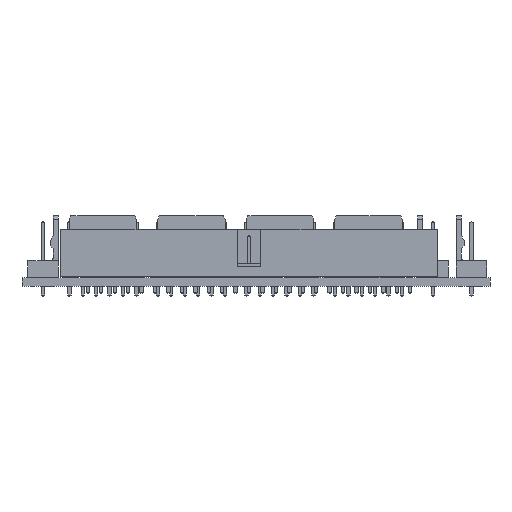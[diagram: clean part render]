
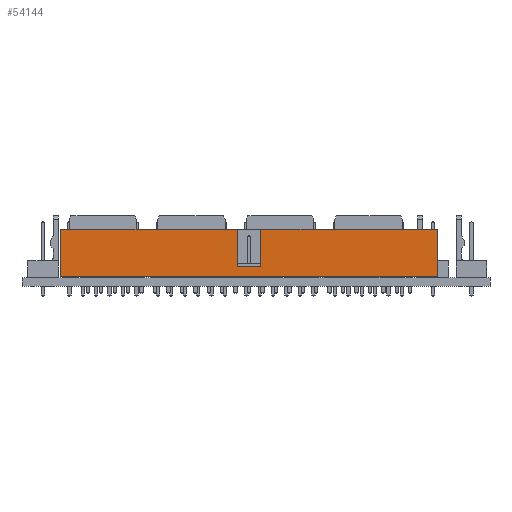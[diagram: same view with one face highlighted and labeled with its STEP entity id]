
A CAD part, front view. The second image highlights one B-rep face of the part: STEP entity #54144.
In plain terms, the highlighted planar face has unit normal (0, -1, 0) as drawn and (-1, 0, 0) by its records, which use the part's own axes.
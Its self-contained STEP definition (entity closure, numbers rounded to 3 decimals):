
#54144 = ADVANCED_FACE('',(#54145),#54159,.T.);
#54145 = FACE_BOUND('',#54146,.T.);
#54146 = EDGE_LOOP('',(#54147,#54182,#54210,#54238,#54266,#54294,#54322,
    #54350));
#54147 = ORIENTED_EDGE('',*,*,#54148,.F.);
#54148 = EDGE_CURVE('',#54149,#54151,#54153,.T.);
#54149 = VERTEX_POINT('',#54150);
#54150 = CARTESIAN_POINT('',(-3.155,5.1,0.25));
#54151 = VERTEX_POINT('',#54152);
#54152 = CARTESIAN_POINT('',(-3.155,5.1,9.1));
#54153 = SURFACE_CURVE('',#54154,(#54158,#54170),.PCURVE_S1.);
#54154 = LINE('',#54155,#54156);
#54155 = CARTESIAN_POINT('',(-3.155,5.1,0.25));
#54156 = VECTOR('',#54157,1.);
#54157 = DIRECTION('',(0.,0.,1.));
#54158 = PCURVE('',#54159,#54164);
#54159 = PLANE('',#54160);
#54160 = AXIS2_PLACEMENT_3D('',#54161,#54162,#54163);
#54161 = CARTESIAN_POINT('',(-3.155,-30.48,4.675));
#54162 = DIRECTION('',(-1.,0.,0.));
#54163 = DIRECTION('',(0.,0.,-1.));
#54164 = DEFINITIONAL_REPRESENTATION('',(#54165),#54169);
#54165 = LINE('',#54166,#54167);
#54166 = CARTESIAN_POINT('',(4.425,-35.58));
#54167 = VECTOR('',#54168,1.);
#54168 = DIRECTION('',(-1.,0.));
#54169 = ( GEOMETRIC_REPRESENTATION_CONTEXT(2) 
PARAMETRIC_REPRESENTATION_CONTEXT() REPRESENTATION_CONTEXT('2D SPACE',''
  ) );
#54170 = PCURVE('',#54171,#54176);
#54171 = PLANE('',#54172);
#54172 = AXIS2_PLACEMENT_3D('',#54173,#54174,#54175);
#54173 = CARTESIAN_POINT('',(1.27,5.1,4.675));
#54174 = DIRECTION('',(0.,1.,0.));
#54175 = DIRECTION('',(0.,0.,1.));
#54176 = DEFINITIONAL_REPRESENTATION('',(#54177),#54181);
#54177 = LINE('',#54178,#54179);
#54178 = CARTESIAN_POINT('',(-4.425,-4.425));
#54179 = VECTOR('',#54180,1.);
#54180 = DIRECTION('',(1.,0.));
#54181 = ( GEOMETRIC_REPRESENTATION_CONTEXT(2) 
PARAMETRIC_REPRESENTATION_CONTEXT() REPRESENTATION_CONTEXT('2D SPACE',''
  ) );
#54182 = ORIENTED_EDGE('',*,*,#54183,.T.);
#54183 = EDGE_CURVE('',#54149,#54184,#54186,.T.);
#54184 = VERTEX_POINT('',#54185);
#54185 = CARTESIAN_POINT('',(-3.155,-66.06,0.25));
#54186 = SURFACE_CURVE('',#54187,(#54191,#54198),.PCURVE_S1.);
#54187 = LINE('',#54188,#54189);
#54188 = CARTESIAN_POINT('',(-3.155,5.1,0.25));
#54189 = VECTOR('',#54190,1.);
#54190 = DIRECTION('',(0.,-1.,0.));
#54191 = PCURVE('',#54159,#54192);
#54192 = DEFINITIONAL_REPRESENTATION('',(#54193),#54197);
#54193 = LINE('',#54194,#54195);
#54194 = CARTESIAN_POINT('',(4.425,-35.58));
#54195 = VECTOR('',#54196,1.);
#54196 = DIRECTION('',(0.,1.));
#54197 = ( GEOMETRIC_REPRESENTATION_CONTEXT(2) 
PARAMETRIC_REPRESENTATION_CONTEXT() REPRESENTATION_CONTEXT('2D SPACE',''
  ) );
#54198 = PCURVE('',#54199,#54204);
#54199 = PLANE('',#54200);
#54200 = AXIS2_PLACEMENT_3D('',#54201,#54202,#54203);
#54201 = CARTESIAN_POINT('',(1.288,-30.48,0.25));
#54202 = DIRECTION('',(0.,0.,-1.));
#54203 = DIRECTION('',(-1.,0.,0.));
#54204 = DEFINITIONAL_REPRESENTATION('',(#54205),#54209);
#54205 = LINE('',#54206,#54207);
#54206 = CARTESIAN_POINT('',(4.443,35.58));
#54207 = VECTOR('',#54208,1.);
#54208 = DIRECTION('',(0.,-1.));
#54209 = ( GEOMETRIC_REPRESENTATION_CONTEXT(2) 
PARAMETRIC_REPRESENTATION_CONTEXT() REPRESENTATION_CONTEXT('2D SPACE',''
  ) );
#54210 = ORIENTED_EDGE('',*,*,#54211,.T.);
#54211 = EDGE_CURVE('',#54184,#54212,#54214,.T.);
#54212 = VERTEX_POINT('',#54213);
#54213 = CARTESIAN_POINT('',(-3.155,-66.06,9.1));
#54214 = SURFACE_CURVE('',#54215,(#54219,#54226),.PCURVE_S1.);
#54215 = LINE('',#54216,#54217);
#54216 = CARTESIAN_POINT('',(-3.155,-66.06,2.6));
#54217 = VECTOR('',#54218,1.);
#54218 = DIRECTION('',(0.,0.,1.));
#54219 = PCURVE('',#54159,#54220);
#54220 = DEFINITIONAL_REPRESENTATION('',(#54221),#54225);
#54221 = LINE('',#54222,#54223);
#54222 = CARTESIAN_POINT('',(2.075,35.58));
#54223 = VECTOR('',#54224,1.);
#54224 = DIRECTION('',(-1.,0.));
#54225 = ( GEOMETRIC_REPRESENTATION_CONTEXT(2) 
PARAMETRIC_REPRESENTATION_CONTEXT() REPRESENTATION_CONTEXT('2D SPACE',''
  ) );
#54226 = PCURVE('',#54227,#54232);
#54227 = PLANE('',#54228);
#54228 = AXIS2_PLACEMENT_3D('',#54229,#54230,#54231);
#54229 = CARTESIAN_POINT('',(1.27,-66.06,4.675));
#54230 = DIRECTION('',(0.,-1.,0.));
#54231 = DIRECTION('',(0.,0.,-1.));
#54232 = DEFINITIONAL_REPRESENTATION('',(#54233),#54237);
#54233 = LINE('',#54234,#54235);
#54234 = CARTESIAN_POINT('',(2.075,-4.425));
#54235 = VECTOR('',#54236,1.);
#54236 = DIRECTION('',(-1.,0.));
#54237 = ( GEOMETRIC_REPRESENTATION_CONTEXT(2) 
PARAMETRIC_REPRESENTATION_CONTEXT() REPRESENTATION_CONTEXT('2D SPACE',''
  ) );
#54238 = ORIENTED_EDGE('',*,*,#54239,.F.);
#54239 = EDGE_CURVE('',#54240,#54212,#54242,.T.);
#54240 = VERTEX_POINT('',#54241);
#54241 = CARTESIAN_POINT('',(-3.155,-32.73,9.1));
#54242 = SURFACE_CURVE('',#54243,(#54247,#54254),.PCURVE_S1.);
#54243 = LINE('',#54244,#54245);
#54244 = CARTESIAN_POINT('',(-3.155,5.1,9.1));
#54245 = VECTOR('',#54246,1.);
#54246 = DIRECTION('',(0.,-1.,0.));
#54247 = PCURVE('',#54159,#54248);
#54248 = DEFINITIONAL_REPRESENTATION('',(#54249),#54253);
#54249 = LINE('',#54250,#54251);
#54250 = CARTESIAN_POINT('',(-4.425,-35.58));
#54251 = VECTOR('',#54252,1.);
#54252 = DIRECTION('',(0.,1.));
#54253 = ( GEOMETRIC_REPRESENTATION_CONTEXT(2) 
PARAMETRIC_REPRESENTATION_CONTEXT() REPRESENTATION_CONTEXT('2D SPACE',''
  ) );
#54254 = PCURVE('',#54255,#54260);
#54255 = PLANE('',#54256);
#54256 = AXIS2_PLACEMENT_3D('',#54257,#54258,#54259);
#54257 = CARTESIAN_POINT('',(1.27,-30.48,9.1));
#54258 = DIRECTION('',(0.,0.,1.));
#54259 = DIRECTION('',(1.,0.,0.));
#54260 = DEFINITIONAL_REPRESENTATION('',(#54261),#54265);
#54261 = LINE('',#54262,#54263);
#54262 = CARTESIAN_POINT('',(-4.425,35.58));
#54263 = VECTOR('',#54264,1.);
#54264 = DIRECTION('',(0.,-1.));
#54265 = ( GEOMETRIC_REPRESENTATION_CONTEXT(2) 
PARAMETRIC_REPRESENTATION_CONTEXT() REPRESENTATION_CONTEXT('2D SPACE',''
  ) );
#54266 = ORIENTED_EDGE('',*,*,#54267,.T.);
#54267 = EDGE_CURVE('',#54240,#54268,#54270,.T.);
#54268 = VERTEX_POINT('',#54269);
#54269 = CARTESIAN_POINT('',(-3.155,-32.73,2.1));
#54270 = SURFACE_CURVE('',#54271,(#54275,#54282),.PCURVE_S1.);
#54271 = LINE('',#54272,#54273);
#54272 = CARTESIAN_POINT('',(-3.155,-32.73,3.388));
#54273 = VECTOR('',#54274,1.);
#54274 = DIRECTION('',(0.,0.,-1.));
#54275 = PCURVE('',#54159,#54276);
#54276 = DEFINITIONAL_REPRESENTATION('',(#54277),#54281);
#54277 = LINE('',#54278,#54279);
#54278 = CARTESIAN_POINT('',(1.288,2.25));
#54279 = VECTOR('',#54280,1.);
#54280 = DIRECTION('',(1.,0.));
#54281 = ( GEOMETRIC_REPRESENTATION_CONTEXT(2) 
PARAMETRIC_REPRESENTATION_CONTEXT() REPRESENTATION_CONTEXT('2D SPACE',''
  ) );
#54282 = PCURVE('',#54283,#54288);
#54283 = PLANE('',#54284);
#54284 = AXIS2_PLACEMENT_3D('',#54285,#54286,#54287);
#54285 = CARTESIAN_POINT('',(-5.155,-32.73,2.1));
#54286 = DIRECTION('',(0.,1.,0.));
#54287 = DIRECTION('',(1.,0.,0.));
#54288 = DEFINITIONAL_REPRESENTATION('',(#54289),#54293);
#54289 = LINE('',#54290,#54291);
#54290 = CARTESIAN_POINT('',(2.,-1.288));
#54291 = VECTOR('',#54292,1.);
#54292 = DIRECTION('',(0.,1.));
#54293 = ( GEOMETRIC_REPRESENTATION_CONTEXT(2) 
PARAMETRIC_REPRESENTATION_CONTEXT() REPRESENTATION_CONTEXT('2D SPACE',''
  ) );
#54294 = ORIENTED_EDGE('',*,*,#54295,.T.);
#54295 = EDGE_CURVE('',#54268,#54296,#54298,.T.);
#54296 = VERTEX_POINT('',#54297);
#54297 = CARTESIAN_POINT('',(-3.155,-28.23,2.1));
#54298 = SURFACE_CURVE('',#54299,(#54303,#54310),.PCURVE_S1.);
#54299 = LINE('',#54300,#54301);
#54300 = CARTESIAN_POINT('',(-3.155,-30.48,2.1));
#54301 = VECTOR('',#54302,1.);
#54302 = DIRECTION('',(0.,1.,0.));
#54303 = PCURVE('',#54159,#54304);
#54304 = DEFINITIONAL_REPRESENTATION('',(#54305),#54309);
#54305 = LINE('',#54306,#54307);
#54306 = CARTESIAN_POINT('',(2.575,0.));
#54307 = VECTOR('',#54308,1.);
#54308 = DIRECTION('',(0.,-1.));
#54309 = ( GEOMETRIC_REPRESENTATION_CONTEXT(2) 
PARAMETRIC_REPRESENTATION_CONTEXT() REPRESENTATION_CONTEXT('2D SPACE',''
  ) );
#54310 = PCURVE('',#54311,#54316);
#54311 = PLANE('',#54312);
#54312 = AXIS2_PLACEMENT_3D('',#54313,#54314,#54315);
#54313 = CARTESIAN_POINT('',(-3.155,-30.48,2.1));
#54314 = DIRECTION('',(0.,0.,1.));
#54315 = DIRECTION('',(1.,0.,0.));
#54316 = DEFINITIONAL_REPRESENTATION('',(#54317),#54321);
#54317 = LINE('',#54318,#54319);
#54318 = CARTESIAN_POINT('',(0.,0.));
#54319 = VECTOR('',#54320,1.);
#54320 = DIRECTION('',(0.,1.));
#54321 = ( GEOMETRIC_REPRESENTATION_CONTEXT(2) 
PARAMETRIC_REPRESENTATION_CONTEXT() REPRESENTATION_CONTEXT('2D SPACE',''
  ) );
#54322 = ORIENTED_EDGE('',*,*,#54323,.T.);
#54323 = EDGE_CURVE('',#54296,#54324,#54326,.T.);
#54324 = VERTEX_POINT('',#54325);
#54325 = CARTESIAN_POINT('',(-3.155,-28.23,9.1));
#54326 = SURFACE_CURVE('',#54327,(#54331,#54338),.PCURVE_S1.);
#54327 = LINE('',#54328,#54329);
#54328 = CARTESIAN_POINT('',(-3.155,-28.23,3.388));
#54329 = VECTOR('',#54330,1.);
#54330 = DIRECTION('',(0.,0.,1.));
#54331 = PCURVE('',#54159,#54332);
#54332 = DEFINITIONAL_REPRESENTATION('',(#54333),#54337);
#54333 = LINE('',#54334,#54335);
#54334 = CARTESIAN_POINT('',(1.288,-2.25));
#54335 = VECTOR('',#54336,1.);
#54336 = DIRECTION('',(-1.,0.));
#54337 = ( GEOMETRIC_REPRESENTATION_CONTEXT(2) 
PARAMETRIC_REPRESENTATION_CONTEXT() REPRESENTATION_CONTEXT('2D SPACE',''
  ) );
#54338 = PCURVE('',#54339,#54344);
#54339 = PLANE('',#54340);
#54340 = AXIS2_PLACEMENT_3D('',#54341,#54342,#54343);
#54341 = CARTESIAN_POINT('',(-1.155,-28.23,2.1));
#54342 = DIRECTION('',(0.,-1.,0.));
#54343 = DIRECTION('',(-1.,0.,0.));
#54344 = DEFINITIONAL_REPRESENTATION('',(#54345),#54349);
#54345 = LINE('',#54346,#54347);
#54346 = CARTESIAN_POINT('',(2.,-1.288));
#54347 = VECTOR('',#54348,1.);
#54348 = DIRECTION('',(0.,-1.));
#54349 = ( GEOMETRIC_REPRESENTATION_CONTEXT(2) 
PARAMETRIC_REPRESENTATION_CONTEXT() REPRESENTATION_CONTEXT('2D SPACE',''
  ) );
#54350 = ORIENTED_EDGE('',*,*,#54351,.F.);
#54351 = EDGE_CURVE('',#54151,#54324,#54352,.T.);
#54352 = SURFACE_CURVE('',#54353,(#54357,#54364),.PCURVE_S1.);
#54353 = LINE('',#54354,#54355);
#54354 = CARTESIAN_POINT('',(-3.155,5.1,9.1));
#54355 = VECTOR('',#54356,1.);
#54356 = DIRECTION('',(0.,-1.,0.));
#54357 = PCURVE('',#54159,#54358);
#54358 = DEFINITIONAL_REPRESENTATION('',(#54359),#54363);
#54359 = LINE('',#54360,#54361);
#54360 = CARTESIAN_POINT('',(-4.425,-35.58));
#54361 = VECTOR('',#54362,1.);
#54362 = DIRECTION('',(0.,1.));
#54363 = ( GEOMETRIC_REPRESENTATION_CONTEXT(2) 
PARAMETRIC_REPRESENTATION_CONTEXT() REPRESENTATION_CONTEXT('2D SPACE',''
  ) );
#54364 = PCURVE('',#54255,#54365);
#54365 = DEFINITIONAL_REPRESENTATION('',(#54366),#54370);
#54366 = LINE('',#54367,#54368);
#54367 = CARTESIAN_POINT('',(-4.425,35.58));
#54368 = VECTOR('',#54369,1.);
#54369 = DIRECTION('',(0.,-1.));
#54370 = ( GEOMETRIC_REPRESENTATION_CONTEXT(2) 
PARAMETRIC_REPRESENTATION_CONTEXT() REPRESENTATION_CONTEXT('2D SPACE',''
  ) );
